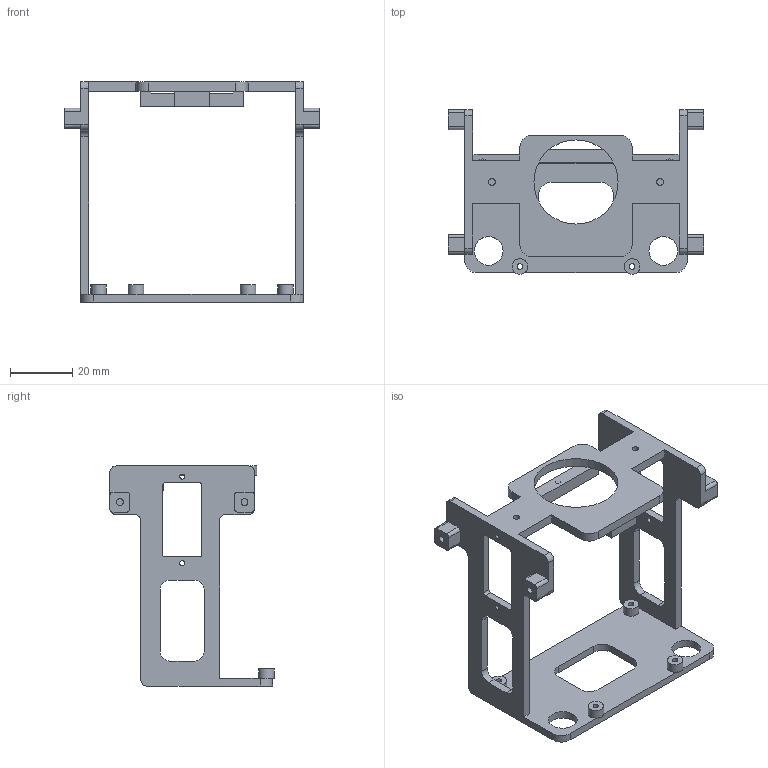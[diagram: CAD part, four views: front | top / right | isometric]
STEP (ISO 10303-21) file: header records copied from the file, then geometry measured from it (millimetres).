
FILE_DESCRIPTION(('Open CASCADE Model'),'2;1');
FILE_NAME('Open CASCADE Shape Model','2026-11-01T16:34:11',('Author'),( 'Open CASCADE'),'Open CASCADE STEP processor 8.0','build123d', 'Unknown');
FILE_SCHEMA(('AUTOMOTIVE_DESIGN { 1 0 10303 214 1 1 1 1 }'));
Length unit declared in the file: millimetre
Products named in the file (1): COMPOUND
Bounding box: 82 x 52.7 x 70.6 mm (x, y, z)
Volume: 17858.9 mm3; surface area: 17518.9 mm2
Topology: 1 solids, 1 shells, 188 faces, 527 edges, 350 vertices
Faces by surface type: plane 103, cylinder 85
Full cylindrical faces by diameter (mm): 1.6 x10, 1.8 x4, 2.2 x6, 5 x4, 9.2 x2, 27 x1
Entity records: 13064 total; most frequent: CARTESIAN_POINT 2588, DIRECTION 1947, LINE 1065, VECTOR 1065, ORIENTED_EDGE 1054, PCURVE 1054, DEFINITIONAL_REPRESENTATION 1054, EDGE_CURVE 527
